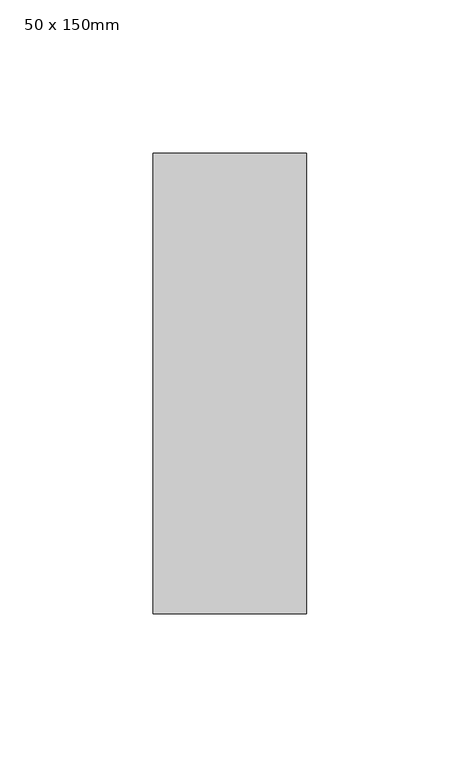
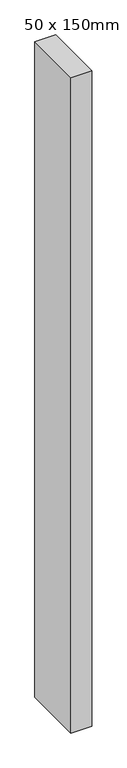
"""IFC4 building model written with IfcOpenShell, lengths in millimetres: member geometry, 矩形竖梃 : 50 x 150mm."""

from ifc_helpers import new_model, si_unit, frame, origin, place, context, project, spatial, polyline, outline, extrude, source, transform, mapped, element, save


def member_50_x_150mm_2a8eee0f(model_context):
    return source(origin(), model_context, "Body", "SweptSolid", [
        extrude(outline(polyline([(0.0, 75.0), (0.0, -75.0), (-50.0, -75.0), (-50.0, 75.0), (0.0, 75.0)])), frame((0.0, 0.0, -1666.6666667), z_axis=(0.0, 0.0, 1.0), x_axis=(1.0, 0.0, 0.0)), (0.0, 0.0, 1.0), 1666.6666667),
    ])


if __name__ == "__main__":
    model = new_model("IFC4")
    model_context = context("Model", 3, world=origin())
    ifc_project = project(units=[si_unit("LENGTHUNIT", "METRE", prefix="MILLI")], contexts=[model_context])
    site = spatial("IfcSite", under=ifc_project)
    building = spatial("IfcBuilding", under=site)
    placement = place(None, origin())
    member_50_x_150mm_shape = member_50_x_150mm_2a8eee0f(model_context)
    element("IfcMember", 1, ObjectType="矩形竖梃 : 50 x 150mm", at=placement, inside=building, context=model_context, shape_type="MappedRepresentation", body=[
        mapped(member_50_x_150mm_shape, transform((0.0, 0.0, 0.0), x_axis=(1.0, 0.0, 0.0), y_axis=(0.0, 1.0, 0.0), z_axis=(0.0, 0.0, 1.0))),
    ])
    save(model, "model.ifc")
